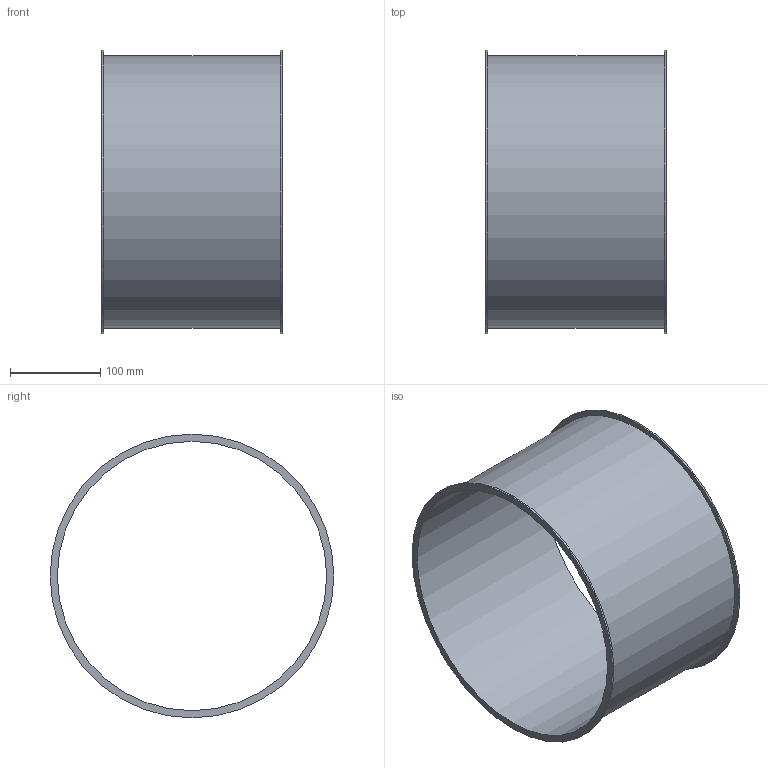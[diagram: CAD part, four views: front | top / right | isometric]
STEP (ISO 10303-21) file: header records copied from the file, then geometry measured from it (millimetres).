
FILE_DESCRIPTION((''),'2;1');
FILE_NAME('U:\Wolfgang\Marcel-3D\fertig\Kapitel 1\3021004.stp','2010-05-31T11:36:46',('TK2'),(''),'Autodesk Inventor 2010','Autodesk Inventor 2010','');
FILE_SCHEMA(('AUTOMOTIVE_DESIGN { 1 0 10303 214 1 1 1 1 }'));
Length unit declared in the file: millimetre
Products named in the file (1): 3021004
Bounding box: 200 x 315 x 315 mm (x, y, z)
Volume: 401545.8 mm3; surface area: 405479.1 mm2
Topology: 1 solids, 1 shells, 8 faces, 12 edges, 8 vertices
Faces by surface type: cylinder 4, plane 4
Full cylindrical faces by diameter (mm): 299 x1, 303 x1, 315 x2
Entity records: 194 total; most frequent: DIRECTION 34, CARTESIAN_POINT 25, AXIS2_PLACEMENT_3D 17, ORIENTED_EDGE 16, EDGE_LOOP 16, VERTEX_POINT 8, CIRCLE 8, EDGE_CURVE 8
